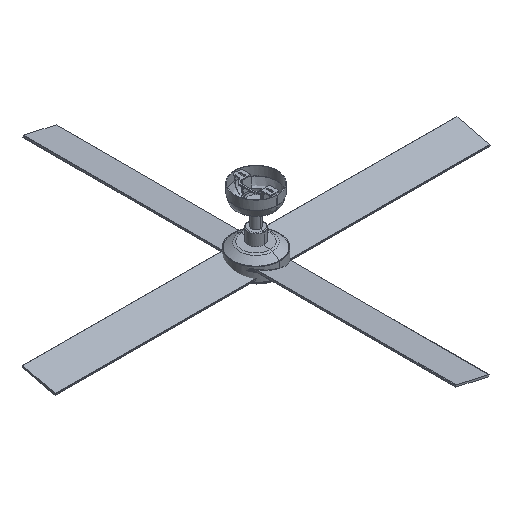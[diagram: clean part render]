
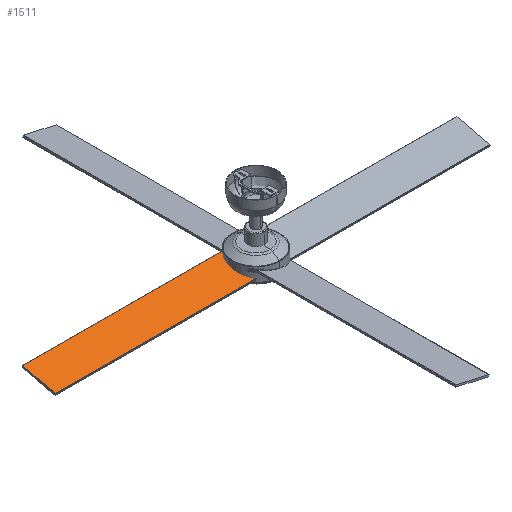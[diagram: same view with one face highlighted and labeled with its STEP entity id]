
A CAD part, isometric view. The second image highlights one B-rep face of the part: STEP entity #1511.
In plain terms, the highlighted planar face has unit normal (-0.001, -0.225, 0.974).
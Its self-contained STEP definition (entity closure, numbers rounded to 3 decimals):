
#107=FACE_BOUND('',#2050,.T.);
#108=FACE_BOUND('',#2051,.T.);
#109=FACE_BOUND('',#2052,.T.);
#1511=ADVANCED_FACE('',(#1777,#107,#108,#109),#5788,.T.);
#1777=FACE_OUTER_BOUND('',#2049,.T.);
#2049=EDGE_LOOP('',(#2450,#2451,#2452,#2453,#2454,#2455));
#2050=EDGE_LOOP('',(#2456,#2457));
#2051=EDGE_LOOP('',(#2458,#2459));
#2052=EDGE_LOOP('',(#2460,#2461));
#2450=ORIENTED_EDGE('',*,*,#3808,.T.);
#2451=ORIENTED_EDGE('',*,*,#3785,.F.);
#2452=ORIENTED_EDGE('',*,*,#3809,.T.);
#2453=ORIENTED_EDGE('',*,*,#3789,.T.);
#2454=ORIENTED_EDGE('',*,*,#3810,.T.);
#2455=ORIENTED_EDGE('',*,*,#3811,.T.);
#2456=ORIENTED_EDGE('',*,*,#3805,.T.);
#2457=ORIENTED_EDGE('',*,*,#3806,.T.);
#2458=ORIENTED_EDGE('',*,*,#3799,.T.);
#2459=ORIENTED_EDGE('',*,*,#3800,.T.);
#2460=ORIENTED_EDGE('',*,*,#3793,.T.);
#2461=ORIENTED_EDGE('',*,*,#3794,.T.);
#3785=EDGE_CURVE('',#5370,#5367,#4905,.T.);
#3789=EDGE_CURVE('',#5372,#5374,#4471,.T.);
#3793=EDGE_CURVE('',#5376,#5378,#4473,.T.);
#3794=EDGE_CURVE('',#5378,#5376,#4474,.T.);
#3799=EDGE_CURVE('',#5380,#5382,#4477,.T.);
#3800=EDGE_CURVE('',#5382,#5380,#4478,.T.);
#3805=EDGE_CURVE('',#5384,#5386,#4481,.T.);
#3806=EDGE_CURVE('',#5386,#5384,#4482,.T.);
#3808=EDGE_CURVE('',#5387,#5367,#4914,.T.);
#3809=EDGE_CURVE('',#5370,#5372,#4915,.T.);
#3810=EDGE_CURVE('',#5374,#5388,#4916,.T.);
#3811=EDGE_CURVE('',#5388,#5387,#4917,.T.);
#4471=TRIMMED_CURVE($,#4687,(#7458),(#7459),.T.,.CARTESIAN.);
#4473=TRIMMED_CURVE($,#4689,(#7468),(#7469),.T.,.CARTESIAN.);
#4474=TRIMMED_CURVE($,#4690,(#7471),(#7472),.T.,.CARTESIAN.);
#4477=TRIMMED_CURVE($,#4693,(#7484),(#7485),.T.,.CARTESIAN.);
#4478=TRIMMED_CURVE($,#4694,(#7487),(#7488),.T.,.CARTESIAN.);
#4481=TRIMMED_CURVE($,#4697,(#7500),(#7501),.T.,.CARTESIAN.);
#4482=TRIMMED_CURVE($,#4698,(#7503),(#7504),.T.,.CARTESIAN.);
#4687=CIRCLE('',#6162,53.78);
#4689=CIRCLE('',#6164,2.5);
#4690=CIRCLE('',#6165,2.5);
#4693=CIRCLE('',#6168,2.5);
#4694=CIRCLE('',#6169,2.5);
#4697=CIRCLE('',#6172,2.5);
#4698=CIRCLE('',#6173,2.5);
#4905=B_SPLINE_CURVE_WITH_KNOTS('',1,(#7448,#7449),.UNSPECIFIED.,.F.,.F.,
(2,2),(0.,630.),.UNSPECIFIED.);
#4914=B_SPLINE_CURVE_WITH_KNOTS('',1,(#7508,#7509),.UNSPECIFIED.,.F.,.F.,
(2,2),(0.,103.),.UNSPECIFIED.);
#4915=B_SPLINE_CURVE_WITH_KNOTS('',1,(#7510,#7511),.UNSPECIFIED.,.F.,.F.,
(2,2),(0.,6.315),.UNSPECIFIED.);
#4916=B_SPLINE_CURVE_WITH_KNOTS('',1,(#7512,#7513),.UNSPECIFIED.,.F.,.F.,
(2,2),(0.,4.435),.UNSPECIFIED.);
#4917=B_SPLINE_CURVE_WITH_KNOTS('',1,(#7514,#7515),.UNSPECIFIED.,.F.,.F.,
(2,2),(0.,630.),.UNSPECIFIED.);
#5367=VERTEX_POINT('',#7408);
#5370=VERTEX_POINT('',#7411);
#5372=VERTEX_POINT('',#7413);
#5374=VERTEX_POINT('',#7415);
#5376=VERTEX_POINT('',#7417);
#5378=VERTEX_POINT('',#7419);
#5380=VERTEX_POINT('',#7421);
#5382=VERTEX_POINT('',#7423);
#5384=VERTEX_POINT('',#7425);
#5386=VERTEX_POINT('',#7427);
#5387=VERTEX_POINT('',#7428);
#5388=VERTEX_POINT('',#7429);
#5788=PLANE('',#6149);
#6149=AXIS2_PLACEMENT_3D('',#7398,#6623,$);
#6162=AXIS2_PLACEMENT_3D($,#7457,#6639,#6640);
#6164=AXIS2_PLACEMENT_3D($,#7467,#6643,#6644);
#6165=AXIS2_PLACEMENT_3D($,#7470,#6645,#6646);
#6168=AXIS2_PLACEMENT_3D($,#7483,#6651,#6652);
#6169=AXIS2_PLACEMENT_3D($,#7486,#6653,#6654);
#6172=AXIS2_PLACEMENT_3D($,#7499,#6659,#6660);
#6173=AXIS2_PLACEMENT_3D($,#7502,#6661,#6662);
#6623=DIRECTION('',(-0.001,-0.225,0.974));
#6639=DIRECTION('',(0.001,0.225,-0.974));
#6640=DIRECTION('',(-0.517,-0.834,-0.193));
#6643=DIRECTION('',(0.001,0.225,-0.974));
#6644=DIRECTION('',(0.004,0.974,0.225));
#6645=DIRECTION('',(0.001,0.225,-0.974));
#6646=DIRECTION('',(-0.004,-0.974,-0.225));
#6651=DIRECTION('',(0.001,0.225,-0.974));
#6652=DIRECTION('',(0.004,0.974,0.225));
#6653=DIRECTION('',(0.001,0.225,-0.974));
#6654=DIRECTION('',(-0.004,-0.974,-0.225));
#6659=DIRECTION('',(0.001,0.225,-0.974));
#6660=DIRECTION('',(0.004,0.974,0.225));
#6661=DIRECTION('',(0.001,0.225,-0.974));
#6662=DIRECTION('',(-0.004,-0.974,-0.225));
#7398=CARTESIAN_POINT('',(883.241,-3049.15,26.078));
#7408=CARTESIAN_POINT('',(946.874,-3036.461,29.064));
#7411=CARTESIAN_POINT('',(1576.869,-3038.881,29.064));
#7413=CARTESIAN_POINT('',(1576.893,-3032.728,30.485));
#7415=CARTESIAN_POINT('',(1577.238,-2942.843,51.236));
#7417=CARTESIAN_POINT('',(1559.964,-2939.902,51.9));
#7419=CARTESIAN_POINT('',(1559.945,-2944.774,50.775));
#7421=CARTESIAN_POINT('',(1540.064,-2984.949,41.483));
#7423=CARTESIAN_POINT('',(1540.045,-2989.821,40.358));
#7425=CARTESIAN_POINT('',(1559.74,-3030.023,31.094));
#7427=CARTESIAN_POINT('',(1559.722,-3034.895,29.969));
#7428=CARTESIAN_POINT('',(947.259,-2936.101,52.234));
#7429=CARTESIAN_POINT('',(1577.254,-2938.522,52.234));
#7448=CARTESIAN_POINT('',(1576.869,-3038.881,29.064));
#7449=CARTESIAN_POINT('',(946.874,-3036.461,29.064));
#7457=CARTESIAN_POINT('',(1604.72,-2987.892,40.861));
#7458=CARTESIAN_POINT('',(1576.893,-3032.728,30.485));
#7459=CARTESIAN_POINT('',(1577.238,-2942.843,51.236));
#7467=CARTESIAN_POINT('',(1559.955,-2942.338,51.338));
#7468=CARTESIAN_POINT('',(1559.964,-2939.902,51.9));
#7469=CARTESIAN_POINT('',(1559.945,-2944.774,50.775));
#7470=CARTESIAN_POINT('',(1559.955,-2942.338,51.338));
#7471=CARTESIAN_POINT('',(1559.945,-2944.774,50.775));
#7472=CARTESIAN_POINT('',(1559.964,-2939.902,51.9));
#7483=CARTESIAN_POINT('',(1540.055,-2987.385,40.92));
#7484=CARTESIAN_POINT('',(1540.064,-2984.949,41.483));
#7485=CARTESIAN_POINT('',(1540.045,-2989.821,40.358));
#7486=CARTESIAN_POINT('',(1540.055,-2987.385,40.92));
#7487=CARTESIAN_POINT('',(1540.045,-2989.821,40.358));
#7488=CARTESIAN_POINT('',(1540.064,-2984.949,41.483));
#7499=CARTESIAN_POINT('',(1559.731,-3032.459,30.532));
#7500=CARTESIAN_POINT('',(1559.74,-3030.023,31.094));
#7501=CARTESIAN_POINT('',(1559.722,-3034.895,29.969));
#7502=CARTESIAN_POINT('',(1559.731,-3032.459,30.532));
#7503=CARTESIAN_POINT('',(1559.722,-3034.895,29.969));
#7504=CARTESIAN_POINT('',(1559.74,-3030.023,31.094));
#7508=CARTESIAN_POINT('',(947.259,-2936.101,52.234));
#7509=CARTESIAN_POINT('',(946.874,-3036.461,29.064));
#7510=CARTESIAN_POINT('',(1576.869,-3038.881,29.064));
#7511=CARTESIAN_POINT('',(1576.893,-3032.728,30.485));
#7512=CARTESIAN_POINT('',(1577.238,-2942.843,51.236));
#7513=CARTESIAN_POINT('',(1577.254,-2938.522,52.234));
#7514=CARTESIAN_POINT('',(1577.254,-2938.522,52.234));
#7515=CARTESIAN_POINT('',(947.259,-2936.101,52.234));
